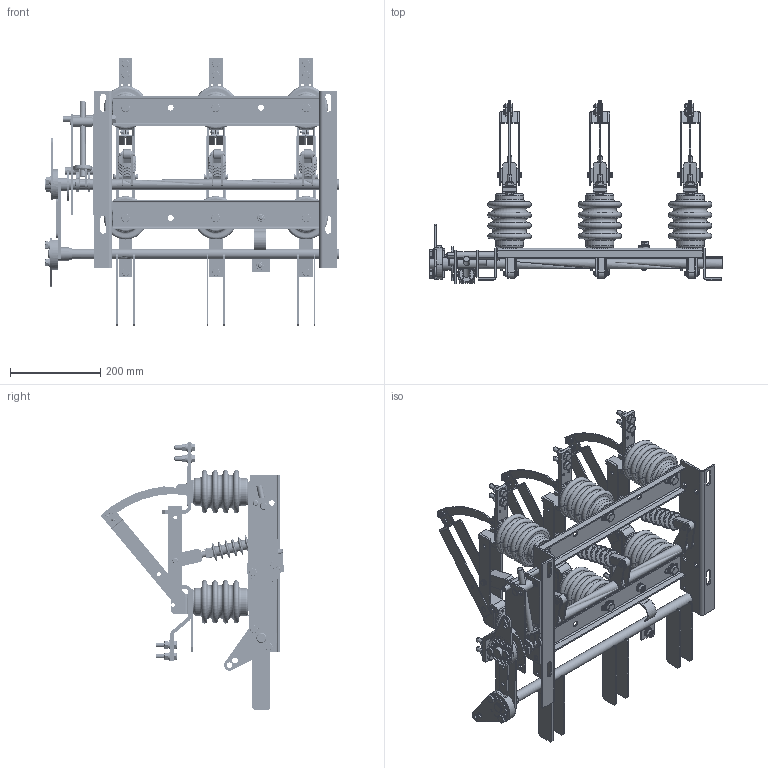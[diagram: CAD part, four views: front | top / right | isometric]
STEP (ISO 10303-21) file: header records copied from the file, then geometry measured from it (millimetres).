
FILE_DESCRIPTION (( 'STEP AP214' ), '1' );
FILE_NAME ('Âûêëþ÷àòåëü íàãðóçêè ÂÍÀ-10630-Ï-ç-È2-ÓÕË2-ÊÝÀÇ.STEP', '2023-02-01T06:32:16', ( '' ), ( '' ), 'SwSTEP 2.0', 'SolidWorks 2018', '' );
FILE_SCHEMA (( 'AUTOMOTIVE_DESIGN' ));
Products named in the file (1): Âûêëþ÷àòåëü íàãðóçêè ÂÍÀ-10630-Ï-ç-È2-ÓÕË2-ÊÝÀÇ
Bounding box: 650.5 x 405.45 x 593.67 mm (x, y, z)
Volume: 6546373 mm3; surface area: 1479724.9 mm2
Topology: 1 solids, 27 shells, 3665 faces, 9230 edges, 5783 vertices
Faces by surface type: plane 1898, cylinder 1149, cone 422, torus 190, bspline 6
Full cylindrical faces by diameter (mm): 6.716 x2, 7.094 x1, 7.525 x1, 8.375 x1, 9.465 x3, 10.14 x3, 11.845 x4, 12.35 x6, 12.977 x3, 13.525 x1, 13.726 x3, 14.772 x2, 15.2 x5, 16.139 x1, 16.649 x1, 17.332 x1, 22 x2, 23 x4, 70 x1
Entity records: 134341 total; most frequent: CARTESIAN_POINT 46779, ORIENTED_EDGE 18292, DIRECTION 18249, EDGE_CURVE 9146, AXIS2_PLACEMENT_3D 6905, VERTEX_POINT 5748, VECTOR 4439, LINE 4439
